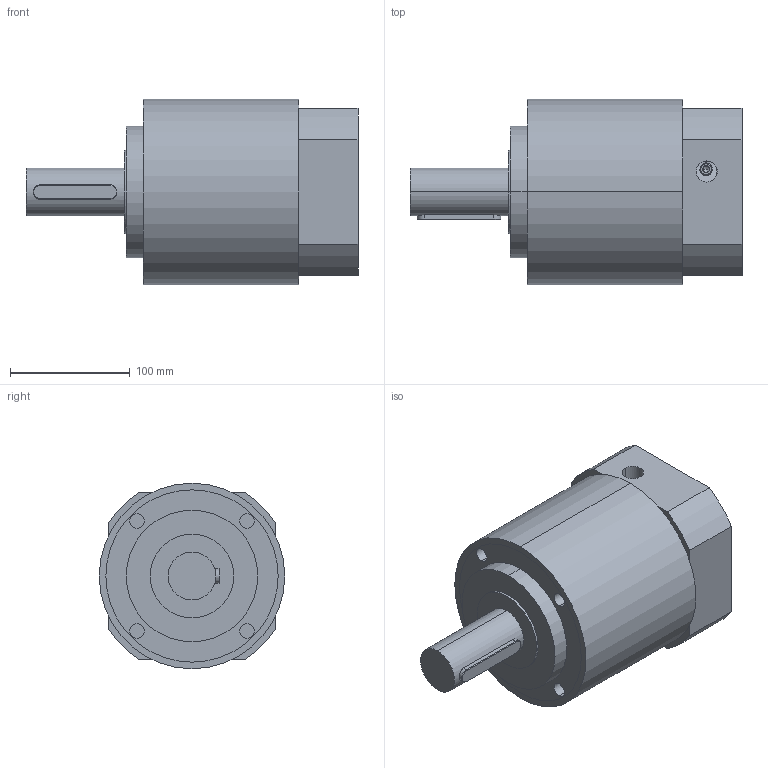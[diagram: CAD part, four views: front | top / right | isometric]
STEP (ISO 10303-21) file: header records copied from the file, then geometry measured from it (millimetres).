
FILE_DESCRIPTION (( 'STEP AP214' ), '1' );
FILE_NAME ('HTRG16N___MHS40224M_1stage.STEP', '2019-11-03T16:30:22', ( '' ), ( '' ), 'SwSTEP 2.0', 'SolidWorks 2018', '' );
FILE_SCHEMA (( 'AUTOMOTIVE_DESIGN' ));
Length unit declared in the file: millimetre
Products named in the file (1): HTRG16N___MHS40224M_1stage
Bounding box: 277.5 x 155 x 155 mm (x, y, z)
Volume: 3428829.8 mm3; surface area: 311590.3 mm2
Topology: 10 solids, 10 shells, 179 faces, 385 edges, 247 vertices
Faces by surface type: cylinder 90, plane 64, cone 21, bspline 4
Entity records: 5554 total; most frequent: CARTESIAN_POINT 1385, DIRECTION 911, ORIENTED_EDGE 766, EDGE_CURVE 383, AXIS2_PLACEMENT_3D 377, VERTEX_POINT 247, EDGE_LOOP 218, CIRCLE 201
